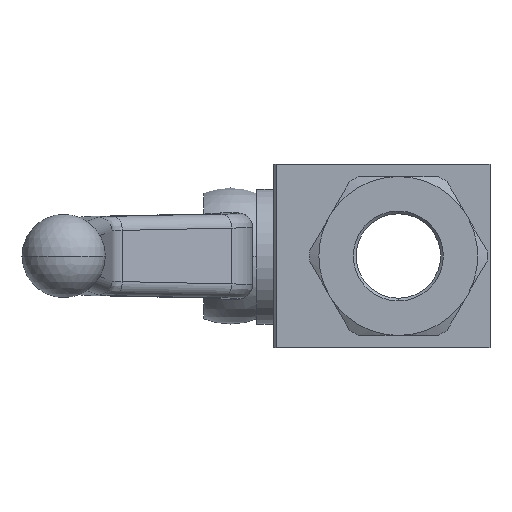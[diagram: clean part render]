
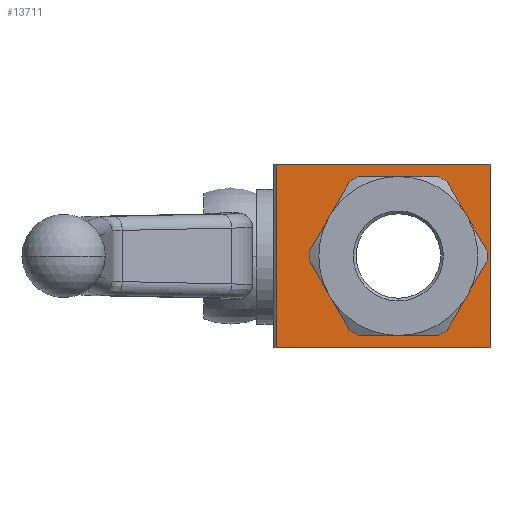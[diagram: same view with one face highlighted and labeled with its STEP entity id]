
A CAD part, left-side view. The second image highlights one B-rep face of the part: STEP entity #13711.
In plain terms, the highlighted planar face has unit normal (-1, 0, 0).
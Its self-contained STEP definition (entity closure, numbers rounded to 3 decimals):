
#37 = DIRECTION ( 'NONE',  ( -1., 0., 0. ) ) ;
#54 = DIRECTION ( 'NONE',  ( 0., -1., 0. ) ) ;
#568 = EDGE_CURVE ( 'NONE', #10979, #11785, #12397, .T. ) ;
#625 = DIRECTION ( 'NONE',  ( -1., 0., 0. ) ) ;
#630 = VERTEX_POINT ( 'NONE', #1137 ) ;
#750 = CARTESIAN_POINT ( 'NONE',  ( -21.5, 19., 16.5 ) ) ;
#905 = LINE ( 'NONE', #1970, #6760 ) ;
#1089 = ORIENTED_EDGE ( 'NONE', *, *, #10798, .F. ) ;
#1115 = LINE ( 'NONE', #9030, #9539 ) ;
#1137 = CARTESIAN_POINT ( 'NONE',  ( -21.5, -3.55, 14.289 ) ) ;
#1239 = CARTESIAN_POINT ( 'NONE',  ( -21.5, -2.45, -14.289 ) ) ;
#1246 = ORIENTED_EDGE ( 'NONE', *, *, #3601, .F. ) ;
#1377 = EDGE_LOOP ( 'NONE', ( #10540, #1246, #4578, #7581 ) ) ;
#1379 = ORIENTED_EDGE ( 'NONE', *, *, #13520, .F. ) ;
#1469 = EDGE_CURVE ( 'NONE', #13115, #10979, #5121, .T. ) ;
#1710 = CARTESIAN_POINT ( 'NONE',  ( -21.5, 19., -16.5 ) ) ;
#1718 = LINE ( 'NONE', #12890, #4623 ) ;
#1841 = PLANE ( 'NONE',  #11191 ) ;
#1912 = VERTEX_POINT ( 'NONE', #10999 ) ;
#1970 = CARTESIAN_POINT ( 'NONE',  ( -21.5, -19.5, 0. ) ) ;
#1974 = LINE ( 'NONE', #4374, #13300 ) ;
#2197 = LINE ( 'NONE', #750, #8038 ) ;
#2205 = EDGE_CURVE ( 'NONE', #11785, #4843, #1718, .T. ) ;
#2522 = CARTESIAN_POINT ( 'NONE',  ( -21.5, 9.1, 7.621 ) ) ;
#2673 = DIRECTION ( 'NONE',  ( -1., 0., 0. ) ) ;
#2680 = VECTOR ( 'NONE', #4093, 1000. ) ;
#2912 = LINE ( 'NONE', #12674, #8400 ) ;
#2971 = VERTEX_POINT ( 'NONE', #11756 ) ;
#3319 = VERTEX_POINT ( 'NONE', #7122 ) ;
#3339 = EDGE_CURVE ( 'NONE', #4843, #12350, #3553, .T. ) ;
#3462 = EDGE_CURVE ( 'NONE', #5923, #5531, #11089, .T. ) ;
#3539 = CARTESIAN_POINT ( 'NONE',  ( -21.5, -2.45, 14.289 ) ) ;
#3550 = VERTEX_POINT ( 'NONE', #8232 ) ;
#3553 = CIRCLE ( 'NONE', #10442, 14.3 ) ;
#3601 = EDGE_CURVE ( 'NONE', #7520, #3832, #2912, .T. ) ;
#3832 = VERTEX_POINT ( 'NONE', #6534 ) ;
#3879 = ORIENTED_EDGE ( 'NONE', *, *, #3339, .F. ) ;
#3935 = CARTESIAN_POINT ( 'NONE',  ( -21.5, -3., 0. ) ) ;
#3946 = DIRECTION ( 'NONE',  ( -1., 0., 0. ) ) ;
#4093 = DIRECTION ( 'NONE',  ( 0., 0.5, -0.866 ) ) ;
#4286 = FACE_BOUND ( 'NONE', #8940, .T. ) ;
#4324 = CARTESIAN_POINT ( 'NONE',  ( -21.5, 9.1, -7.621 ) ) ;
#4374 = CARTESIAN_POINT ( 'NONE',  ( -21.5, 19.5, -16.5 ) ) ;
#4578 = ORIENTED_EDGE ( 'NONE', *, *, #9568, .F. ) ;
#4623 = VECTOR ( 'NONE', #9253, 1000. ) ;
#4843 = VERTEX_POINT ( 'NONE', #13988 ) ;
#5015 = DIRECTION ( 'NONE',  ( 0., 0., 1. ) ) ;
#5121 = LINE ( 'NONE', #11619, #10630 ) ;
#5206 = DIRECTION ( 'NONE',  ( 1., 0., 0. ) ) ;
#5372 = EDGE_CURVE ( 'NONE', #2971, #5674, #2197, .T. ) ;
#5459 = AXIS2_PLACEMENT_3D ( 'NONE', #6621, #37, #7725 ) ;
#5520 = ORIENTED_EDGE ( 'NONE', *, *, #2205, .F. ) ;
#5531 = VERTEX_POINT ( 'NONE', #6706 ) ;
#5576 = CARTESIAN_POINT ( 'NONE',  ( -21.5, -3., 0. ) ) ;
#5674 = VERTEX_POINT ( 'NONE', #1710 ) ;
#5876 = CARTESIAN_POINT ( 'NONE',  ( -21.5, -11.25, 14.289 ) ) ;
#5923 = VERTEX_POINT ( 'NONE', #2522 ) ;
#5967 = EDGE_CURVE ( 'NONE', #630, #12105, #11502, .T. ) ;
#6534 = CARTESIAN_POINT ( 'NONE',  ( -21.5, -19.5, -16.5 ) ) ;
#6621 = CARTESIAN_POINT ( 'NONE',  ( -21.5, -3., 0. ) ) ;
#6676 = DIRECTION ( 'NONE',  ( 0., 0., 1. ) ) ;
#6706 = CARTESIAN_POINT ( 'NONE',  ( -21.5, 9.65, 6.668 ) ) ;
#6760 = VECTOR ( 'NONE', #12764, 1000. ) ;
#6842 = ORIENTED_EDGE ( 'NONE', *, *, #3462, .F. ) ;
#6920 = CARTESIAN_POINT ( 'NONE',  ( -21.5, -11.25, -14.289 ) ) ;
#6981 = DIRECTION ( 'NONE',  ( 0., 1., 0. ) ) ;
#7122 = CARTESIAN_POINT ( 'NONE',  ( -21.5, -15.65, 6.668 ) ) ;
#7212 = FACE_OUTER_BOUND ( 'NONE', #1377, .T. ) ;
#7216 = CARTESIAN_POINT ( 'NONE',  ( -21.5, -3., 0. ) ) ;
#7436 = ORIENTED_EDGE ( 'NONE', *, *, #7563, .F. ) ;
#7520 = VERTEX_POINT ( 'NONE', #13691 ) ;
#7563 = EDGE_CURVE ( 'NONE', #3550, #3319, #8529, .T. ) ;
#7581 = ORIENTED_EDGE ( 'NONE', *, *, #5372, .T. ) ;
#7630 = CIRCLE ( 'NONE', #8815, 14.3 ) ;
#7725 = DIRECTION ( 'NONE',  ( 0., 0., 1. ) ) ;
#7734 = AXIS2_PLACEMENT_3D ( 'NONE', #10498, #3946, #11605 ) ;
#7911 = EDGE_CURVE ( 'NONE', #5674, #3832, #1974, .T. ) ;
#8011 = DIRECTION ( 'NONE',  ( 0., -0.5, 0.866 ) ) ;
#8038 = VECTOR ( 'NONE', #11743, 1000. ) ;
#8128 = AXIS2_PLACEMENT_3D ( 'NONE', #3935, #11594, #5015 ) ;
#8232 = CARTESIAN_POINT ( 'NONE',  ( -21.5, -15.65, -6.668 ) ) ;
#8330 = DIRECTION ( 'NONE',  ( 0., 0., 1. ) ) ;
#8400 = VECTOR ( 'NONE', #13780, 1000. ) ;
#8420 = DIRECTION ( 'NONE',  ( 0., -0.5, -0.866 ) ) ;
#8529 = CIRCLE ( 'NONE', #8128, 14.3 ) ;
#8595 = CARTESIAN_POINT ( 'NONE',  ( -21.5, 5.25, 14.289 ) ) ;
#8596 = VECTOR ( 'NONE', #6981, 1000. ) ;
#8815 = AXIS2_PLACEMENT_3D ( 'NONE', #5576, #13231, #6676 ) ;
#8940 = EDGE_LOOP ( 'NONE', ( #7436, #11115, #3879, #5520, #11043, #12521, #1379, #6842, #1089, #13146, #13412, #9606 ) ) ;
#9030 = CARTESIAN_POINT ( 'NONE',  ( -21.5, 19.5, 16.5 ) ) ;
#9234 = CARTESIAN_POINT ( 'NONE',  ( -21.5, -3., 0. ) ) ;
#9253 = DIRECTION ( 'NONE',  ( 0., -1., 0. ) ) ;
#9254 = AXIS2_PLACEMENT_3D ( 'NONE', #9234, #2673, #10332 ) ;
#9349 = CIRCLE ( 'NONE', #7734, 14.3 ) ;
#9539 = VECTOR ( 'NONE', #10129, 1000. ) ;
#9568 = EDGE_CURVE ( 'NONE', #2971, #7520, #1115, .T. ) ;
#9606 = ORIENTED_EDGE ( 'NONE', *, *, #10904, .F. ) ;
#9798 = VECTOR ( 'NONE', #8011, 1000. ) ;
#10129 = DIRECTION ( 'NONE',  ( 0., -1., 0. ) ) ;
#10283 = CIRCLE ( 'NONE', #9254, 14.3 ) ;
#10332 = DIRECTION ( 'NONE',  ( 0., 0., 1. ) ) ;
#10442 = AXIS2_PLACEMENT_3D ( 'NONE', #7216, #625, #8330 ) ;
#10498 = CARTESIAN_POINT ( 'NONE',  ( -21.5, -3., 0. ) ) ;
#10540 = ORIENTED_EDGE ( 'NONE', *, *, #7911, .T. ) ;
#10630 = VECTOR ( 'NONE', #8420, 1000. ) ;
#10798 = EDGE_CURVE ( 'NONE', #12105, #5923, #7630, .T. ) ;
#10904 = EDGE_CURVE ( 'NONE', #3319, #1912, #905, .T. ) ;
#10979 = VERTEX_POINT ( 'NONE', #4324 ) ;
#10999 = CARTESIAN_POINT ( 'NONE',  ( -21.5, -15.1, 7.621 ) ) ;
#11043 = ORIENTED_EDGE ( 'NONE', *, *, #568, .F. ) ;
#11089 = LINE ( 'NONE', #8595, #2680 ) ;
#11115 = ORIENTED_EDGE ( 'NONE', *, *, #12505, .F. ) ;
#11191 = AXIS2_PLACEMENT_3D ( 'NONE', #11773, #5206, #12870 ) ;
#11397 = EDGE_CURVE ( 'NONE', #1912, #630, #9349, .T. ) ;
#11502 = LINE ( 'NONE', #5876, #8596 ) ;
#11594 = DIRECTION ( 'NONE',  ( -1., 0., 0. ) ) ;
#11605 = DIRECTION ( 'NONE',  ( 0., 0., 1. ) ) ;
#11619 = CARTESIAN_POINT ( 'NONE',  ( -21.5, 13.5, 0. ) ) ;
#11743 = DIRECTION ( 'NONE',  ( 0., 0., -1. ) ) ;
#11756 = CARTESIAN_POINT ( 'NONE',  ( -21.5, 19., 16.5 ) ) ;
#11773 = CARTESIAN_POINT ( 'NONE',  ( -21.5, 19.5, 16.5 ) ) ;
#11785 = VERTEX_POINT ( 'NONE', #1239 ) ;
#12105 = VERTEX_POINT ( 'NONE', #3539 ) ;
#12350 = VERTEX_POINT ( 'NONE', #13187 ) ;
#12397 = CIRCLE ( 'NONE', #5459, 14.3 ) ;
#12505 = EDGE_CURVE ( 'NONE', #12350, #3550, #12711, .T. ) ;
#12521 = ORIENTED_EDGE ( 'NONE', *, *, #1469, .F. ) ;
#12674 = CARTESIAN_POINT ( 'NONE',  ( -21.5, -19.5, 16.5 ) ) ;
#12711 = LINE ( 'NONE', #6920, #9798 ) ;
#12764 = DIRECTION ( 'NONE',  ( 0., 0.5, 0.866 ) ) ;
#12870 = DIRECTION ( 'NONE',  ( 0., 1., 0. ) ) ;
#12890 = CARTESIAN_POINT ( 'NONE',  ( -21.5, 5.25, -14.289 ) ) ;
#13115 = VERTEX_POINT ( 'NONE', #13401 ) ;
#13146 = ORIENTED_EDGE ( 'NONE', *, *, #5967, .F. ) ;
#13187 = CARTESIAN_POINT ( 'NONE',  ( -21.5, -15.1, -7.621 ) ) ;
#13231 = DIRECTION ( 'NONE',  ( -1., 0., 0. ) ) ;
#13300 = VECTOR ( 'NONE', #54, 1000. ) ;
#13401 = CARTESIAN_POINT ( 'NONE',  ( -21.5, 9.65, -6.668 ) ) ;
#13412 = ORIENTED_EDGE ( 'NONE', *, *, #11397, .F. ) ;
#13520 = EDGE_CURVE ( 'NONE', #5531, #13115, #10283, .T. ) ;
#13691 = CARTESIAN_POINT ( 'NONE',  ( -21.5, -19.5, 16.5 ) ) ;
#13711 = ADVANCED_FACE ( 'NONE', ( #4286, #7212 ), #1841, .F. ) ;
#13780 = DIRECTION ( 'NONE',  ( 0., 0., -1. ) ) ;
#13988 = CARTESIAN_POINT ( 'NONE',  ( -21.5, -3.55, -14.289 ) ) ;
